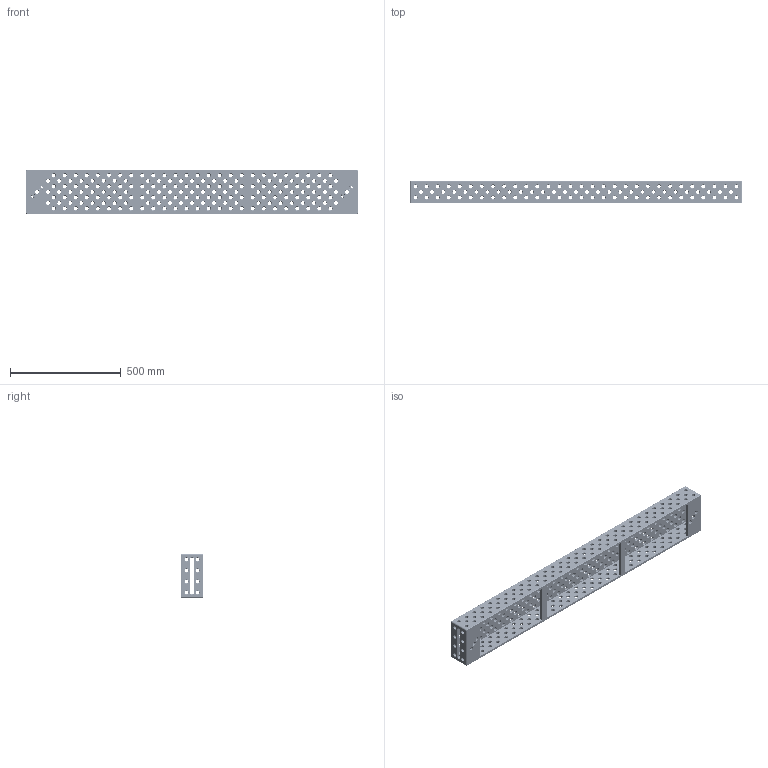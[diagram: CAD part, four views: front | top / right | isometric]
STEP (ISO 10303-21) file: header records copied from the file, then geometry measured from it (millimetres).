
FILE_DESCRIPTION (( 'STEP AP203' ), '1' );
FILE_NAME ('160380.1_1500x200x100.step', '2014-08-11T15:31:26', ( 'User' ), ( '' ), 'SwSTEP 2.0', 'SolidWorks 2014', '' );
FILE_SCHEMA (( 'CONFIG_CONTROL_DESIGN' ));
Length unit declared in the file: millimetre
Products named in the file (1): 160380.1_1500x200x100
Bounding box: 1500 x 100 x 200 mm (x, y, z)
Volume: 6445927.7 mm3; surface area: 1338175 mm2
Topology: 1 solids, 1 shells, 2511 faces, 5870 edges, 3360 vertices
Faces by surface type: cone 838, cylinder 830, torus 810, plane 33
Entity records: 73739 total; most frequent: DIRECTION 15008, CARTESIAN_POINT 11742, ORIENTED_EDGE 11740, AXIS2_PLACEMENT_3D 6626, EDGE_CURVE 5870, CIRCLE 4114, VERTEX_POINT 3360, EDGE_LOOP 3332
